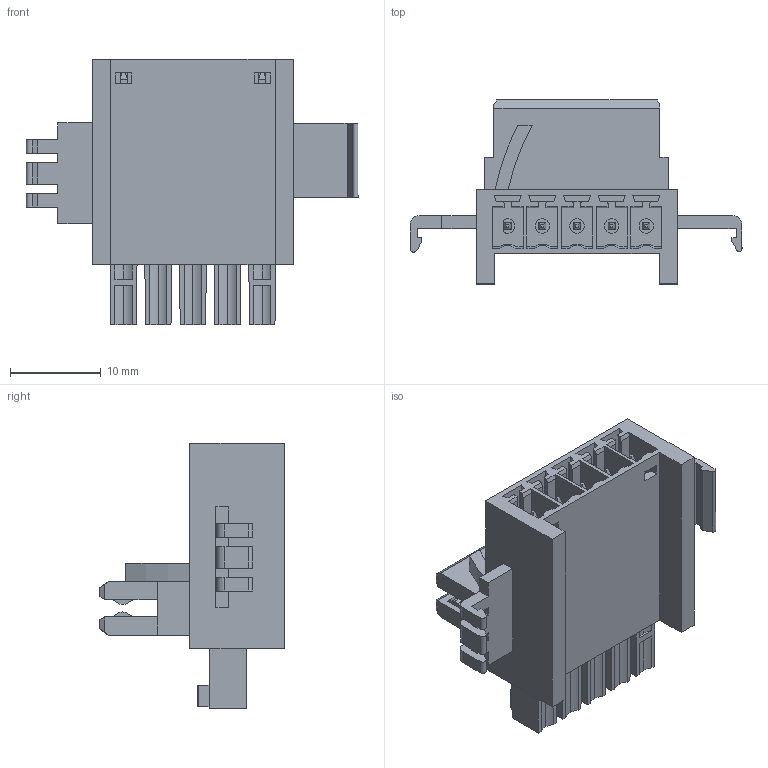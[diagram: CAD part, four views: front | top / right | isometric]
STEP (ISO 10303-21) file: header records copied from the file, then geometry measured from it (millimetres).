
FILE_DESCRIPTION(('OneSpaceDesigner STEP Export'),'2;1');
FILE_NAME('ME_22_5_TBUS_1_5-5-ST-3_81.stp','2004-10-26T11:22:26',(''),(''),'OneSpace Designer STEP processor (Jan. 2003) for AP214(CD)(Solid Model)','OneSpace Designer 12.01C 26-Mar-2004 (C) CoCreate Software GmbH','');
FILE_SCHEMA(('AUTOMOTIVE_DESIGN_CC2 {1 2 10303 214 -1 1 5 1}'));
Length unit declared in the file: millimetre
Products named in the file (2): ME_22.5_TBUS_1.5-5-ST-3.81_H.Select
Assembly tree (1 placements, depth 2):
  ME_22.5_TBUS_1.5-5-ST-3.81_H.Select
    ME_22.5_TBUS_1.5-5-ST-3.81_H.Select
Bounding box: 36.5 x 20.25 x 29.2 mm (x, y, z)
Volume: 4705.5 mm3; surface area: 4441 mm2
Topology: 1 solids, 1 shells, 432 faces, 1135 edges, 741 vertices
Faces by surface type: plane 322, cylinder 100, cone 10
Entity records: 15940 total; most frequent: ORIENTED_EDGE 2270, CARTESIAN_POINT 2254, DIRECTION 1879, EDGE_CURVE 1135, VECTOR 887, LINE 887, VERTEX_POINT 741, AXIS2_PLACEMENT_3D 496
